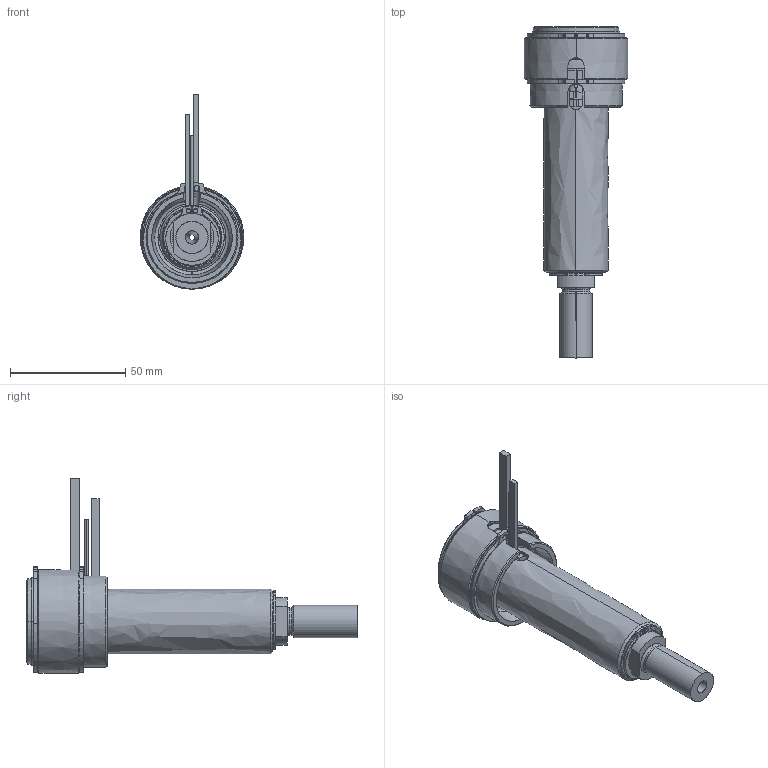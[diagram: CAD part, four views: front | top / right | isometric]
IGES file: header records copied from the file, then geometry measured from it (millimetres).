
Start section: SolidWorks IGES file using analytic representation for surfaces
Global section: file name: C:\Documents and Settings\ws-20\Desktop\TEM\UGBE4502-M-A-P-3 [Ød-2.5 P-25 ØC-09].IGS; native system: SolidWorks 2012; preprocessor: SolidWorks 2012; author: ws-20; date: 120412.153004; units: millimetre
Bounding box: 45 x 144.25 x 84.5 mm (x, y, z)
Surface area: 47163.4 mm2 (no closed solid volume)
Topology: 0 solids, 0 shells, 162 faces, 3063 edges, 3063 vertices
Faces by surface type: revolution 99, bspline 63
